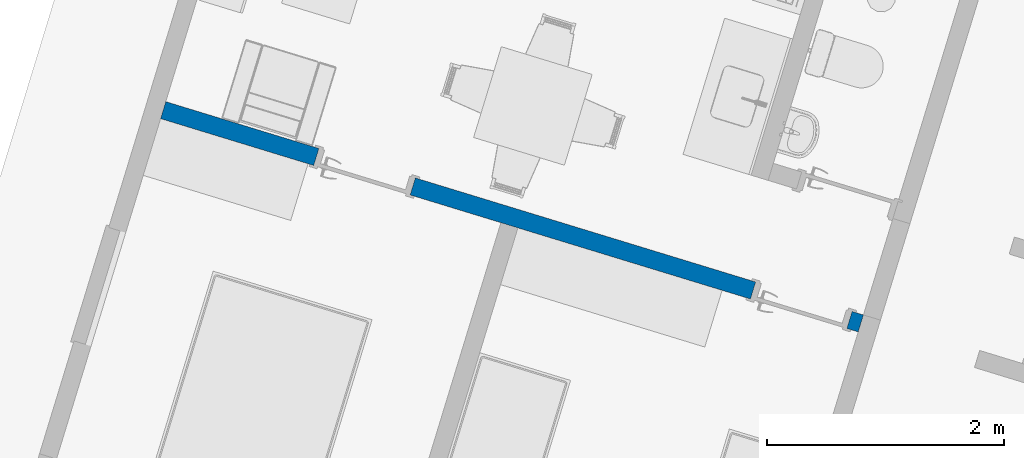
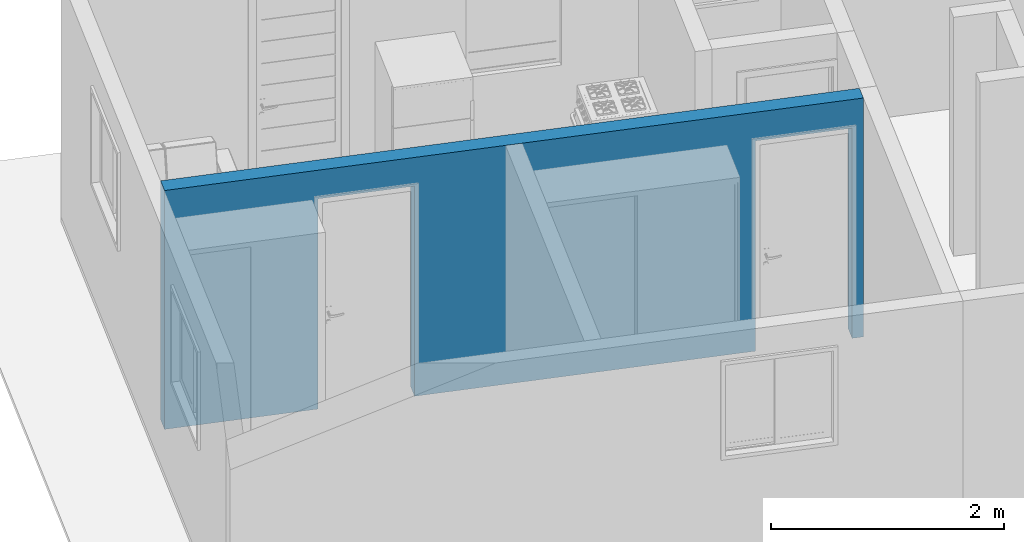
# One storey, part 2 of 13: 1 wall, 2 openings.
"""IFC2X3 building model written with IfcOpenShell, lengths in millimetres."""

from ifc_helpers import new_model, entity, si_unit, converted_unit, derived_unit, money_unit, direction, frame, origin_with_axes, place, context, subcontext, project, spatial, faceted_brep, material, type_object, element, save


model = new_model("IFC2X3")

# Units and contexts
model_context = context("Model", 3, precision=0.01, world=origin_with_axes(), true_north=direction((0.0, 1.0)))
body_context = subcontext(model_context, "Body", "Model", "MODEL_VIEW")
ifc_project = project(units=[si_unit("LENGTHUNIT", "METRE", prefix="MILLI"), si_unit("AREAUNIT", "SQUARE_METRE"), si_unit("VOLUMEUNIT", "CUBIC_METRE"), converted_unit("PLANEANGLEUNIT", "DEGREE", entity("IfcPlaneAngleMeasure", 0.0174532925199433), si_unit("PLANEANGLEUNIT", "RADIAN"), dimensions=[0, 0, 0, 0, 0, 0, 0]), money_unit("USD"), converted_unit("TIMEUNIT", "Year", entity("IfcTimeMeasure", 31557600.0), si_unit("TIMEUNIT", "SECOND"), dimensions=[0, 0, 1, 0, 0, 0, 0]), si_unit("MASSUNIT", "GRAM", prefix="KILO"), si_unit("THERMODYNAMICTEMPERATUREUNIT", "DEGREE_CELSIUS"), si_unit("LUMINOUSINTENSITYUNIT", "LUMEN"), si_unit("ENERGYUNIT", "JOULE", prefix="MEGA"), derived_unit("THERMALCONDUCTANCEUNIT", [(si_unit("POWERUNIT", "WATT"), 1), (si_unit("LENGTHUNIT", "METRE"), -1), (si_unit("THERMODYNAMICTEMPERATUREUNIT", "KELVIN"), -1)]), derived_unit("SPECIFICHEATCAPACITYUNIT", [(si_unit("ENERGYUNIT", "JOULE"), 1), (si_unit("MASSUNIT", "GRAM", prefix="KILO"), -1), (si_unit("THERMODYNAMICTEMPERATUREUNIT", "KELVIN"), -1)]), derived_unit("MASSDENSITYUNIT", [(si_unit("MASSUNIT", "GRAM", prefix="KILO"), 1), (si_unit("VOLUMEUNIT", "CUBIC_METRE"), -1)])], contexts=[model_context])

# Site, building, storey
site_placement = place(None, frame((0.0, 0.0, 0.0), z_axis=(0.0, 0.0, 1.0), x_axis=(0.9563047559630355, -0.2923717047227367, 0.0)))
site = spatial("IfcSite", under=ifc_project, at=site_placement, Name="Site", CompositionType="ELEMENT")
building_placement = place(site_placement, origin_with_axes())
building = spatial("IfcBuilding", under=site, at=building_placement, Name="Casa Térrea Isolada", CompositionType="ELEMENT")
storey_placement = place(building_placement, origin_with_axes())
storey = spatial("IfcBuildingStorey", under=building, at=storey_placement, Name="Terreo", CompositionType="ELEMENT", Elevation=0.0)

# Wall, openings
ifc_material = material(Name="Bloco de Concreto - Estrutural")
wall_type = type_object("IfcWallType", Name="Bloco de Concreto - Estrutural 150", PredefinedType="NOTDEFINED")
wall_placement = place(storey_placement, frame((6375.001429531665, 3225.000642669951, 0.0), z_axis=(0.0, 0.0, 1.0), x_axis=(-0.9999999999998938, -4.610697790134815e-07, 0.0)))
wall = element("IfcWall", 1, at=wall_placement, inside=storey, type_object=wall_type, material=ifc_material, Name="Parede 03", context=body_context, shape_type="Brep", body=[
    faceted_brep([(4874.998547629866, -75.00000000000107, 2200.0), (4874.998547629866, -75.00000000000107, 0.0), (6224.999942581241, -75.0000000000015, 0.0), (6224.999942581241, -75.0000000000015, 2500.0), (74.99999999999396, -74.99999999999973, 2500.0), (74.99999999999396, -75.00000000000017, 0.0), (174.9985476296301, -75.00000000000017, 0.0), (174.9985476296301, -74.99999999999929, 2200.0), (1024.998547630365, -75.00000000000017, 2200.0), (1024.998547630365, -75.00000000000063, 0.0), (4024.998547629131, -75.00000000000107, 0.0), (4024.998547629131, -75.00000000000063, 2200.0), (4874.998547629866, 74.99999999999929, 2200.0), (4874.998547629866, 74.99999999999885, 0.0), (6224.99994258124, 74.99999999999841, 0.0), (6224.99994258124, 74.99999999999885, 2500.0), (74.99999999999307, 75.00000000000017, 2500.0), (74.99999999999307, 75.00000000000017, 0.0), (174.9985476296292, 74.99999999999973, 0.0), (174.9985476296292, 75.00000000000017, 2200.0), (1024.998547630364, 75.00000000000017, 2200.0), (1024.998547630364, 74.99999999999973, 0.0), (4024.998547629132, 74.99999999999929, 0.0), (4024.998547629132, 74.99999999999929, 2200.0)], [[[0, 1, 2, 3, 4, 5, 6, 7, 8, 9, 10, 11]], [[1, 0, 12, 13]], [[1, 13, 14, 2]], [[2, 14, 15, 3]], [[16, 4, 3, 15]], [[16, 17, 5, 4]], [[6, 5, 17, 18]], [[6, 18, 19, 7]], [[7, 19, 20, 8]], [[8, 20, 21, 9]], [[22, 10, 9, 21]], [[11, 10, 22, 23]], [[0, 11, 23, 12]], [[23, 22, 21, 20, 19, 18, 17, 16, 15, 14, 13, 12]]]),
])
opening_1_placement = place(wall_placement, frame((4449.9985476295, 0.0, 0.0), z_axis=(0.0, 0.0, 1.0), x_axis=(1.0, 0.0, 0.0)))
element("IfcOpeningElement", 2, at=opening_1_placement, cuts=wall, Name="Porta 02", context=body_context, shape_type="Brep", body=[
    faceted_brep([(425.0000000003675, 74.99999999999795, 2200.0), (-425.0000000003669, 74.99999999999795, 2200.0), (-425.0000000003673, -75.00000000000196, 2200.0), (425.0000000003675, -75.00000000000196, 2200.0), (-425.0000000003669, 74.99999999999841, 0.0), (425.0000000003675, 74.99999999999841, 0.0), (460.0000000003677, 74.99999999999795, 0.0), (460.0000000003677, 74.99999999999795, 2235.0), (-460.000000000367, 74.99999999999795, 2235.0), (-460.000000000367, 74.99999999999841, 0.0), (-425.0000000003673, -75.00000000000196, 0.0), (-460.0000000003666, -75.0000000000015, 0.0), (-460.0000000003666, -75.0000000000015, 2235.0), (460.0000000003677, -75.00000000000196, 2235.0), (460.0000000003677, -75.00000000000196, 0.0), (425.0000000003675, -75.0000000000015, 0.0), (425.0000000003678, 76.00290473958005, 0.0), (460.0000000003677, 76.00290473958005, 0.0), (460.0000000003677, 76.00290473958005, 2235.0), (-460.000000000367, 76.00290473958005, 2235.0), (-460.000000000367, 76.00290473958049, 0.0), (-425.0000000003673, 76.00290473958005, 0.0), (425.0000000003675, -76.00290473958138, 0.0), (-425.0000000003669, -76.00290473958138, 0.0), (-460.0000000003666, -76.00290473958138, 0.0), (-460.0000000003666, -76.00290473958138, 2235.0), (460.0000000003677, -76.00290473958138, 2235.0), (460.0000000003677, -76.00290473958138, 0.0), (425.0000000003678, 76.00290473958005, 2200.0), (-425.0000000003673, 76.00290473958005, 2200.0)], [[[0, 1, 2, 3]], [[4, 1, 0, 5, 6, 7, 8, 9]], [[1, 4, 10, 2]], [[3, 2, 10, 11, 12, 13, 14, 15]], [[5, 0, 3, 15]], [[5, 16, 17, 6]], [[7, 6, 17, 18]], [[8, 7, 18, 19]], [[9, 8, 19, 20]], [[21, 4, 9, 20]], [[16, 5, 15, 22, 23, 10, 4, 21]], [[10, 23, 24, 11]], [[12, 11, 24, 25]], [[13, 12, 25, 26]], [[14, 13, 26, 27]], [[22, 15, 14, 27]], [[28, 29, 21, 20, 19, 18, 17, 16]], [[23, 22, 27, 26, 25, 24]], [[28, 16, 21, 29]]]),
])
opening_2_placement = place(wall_placement, frame((599.9985476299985, 0.0, 0.0), z_axis=(0.0, 0.0, 1.0), x_axis=(1.0, 0.0, 0.0)))
element("IfcOpeningElement", 3, at=opening_2_placement, cuts=wall, Name="Porta 03", context=body_context, shape_type="Brep", body=[
    faceted_brep([(425.0000000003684, 74.99999999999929, 2200.0), (-425.0000000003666, 74.99999999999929, 2200.0), (-425.0000000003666, -75.00000000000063, 2200.0), (425.0000000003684, -75.00000000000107, 2200.0), (-425.0000000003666, 74.99999999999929, 0.0), (425.0000000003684, 74.99999999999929, 0.0), (460.0000000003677, 74.99999999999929, 0.0), (460.0000000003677, 74.99999999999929, 2235.0), (-460.0000000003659, 74.99999999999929, 2235.0), (-460.0000000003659, 74.99999999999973, 0.0), (-425.0000000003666, -75.00000000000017, 0.0), (-460.0000000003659, -75.00000000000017, 0.0), (-460.0000000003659, -75.00000000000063, 2235.0), (460.0000000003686, -75.00000000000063, 2235.0), (460.0000000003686, -75.00000000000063, 0.0), (425.0000000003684, -75.00000000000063, 0.0), (425.0000000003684, 76.00290473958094, 0.0), (460.0000000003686, 76.00290473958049, 0.0), (460.0000000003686, 76.00290473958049, 2235.0), (-460.0000000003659, 76.00290473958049, 2235.0), (-460.0000000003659, 76.00290473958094, 0.0), (-425.0000000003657, 76.00290473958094, 0.0), (425.0000000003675, -76.00290473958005, 0.0), (-425.0000000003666, -76.00290473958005, 0.0), (-460.0000000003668, -76.0029047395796, 0.0), (-460.0000000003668, -76.00290473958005, 2235.0), (460.0000000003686, -76.00290473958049, 2235.0), (460.0000000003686, -76.00290473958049, 0.0), (425.0000000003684, 76.00290473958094, 2200.0), (-425.0000000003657, 76.00290473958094, 2200.0)], [[[0, 1, 2, 3]], [[4, 1, 0, 5, 6, 7, 8, 9]], [[1, 4, 10, 2]], [[3, 2, 10, 11, 12, 13, 14, 15]], [[5, 0, 3, 15]], [[5, 16, 17, 6]], [[7, 6, 17, 18]], [[8, 7, 18, 19]], [[9, 8, 19, 20]], [[21, 4, 9, 20]], [[16, 5, 15, 22, 23, 10, 4, 21]], [[10, 23, 24, 11]], [[12, 11, 24, 25]], [[13, 12, 25, 26]], [[14, 13, 26, 27]], [[22, 15, 14, 27]], [[28, 29, 21, 20, 19, 18, 17, 16]], [[23, 22, 27, 26, 25, 24]], [[28, 16, 21, 29]]]),
])

save(model, "model.ifc")
